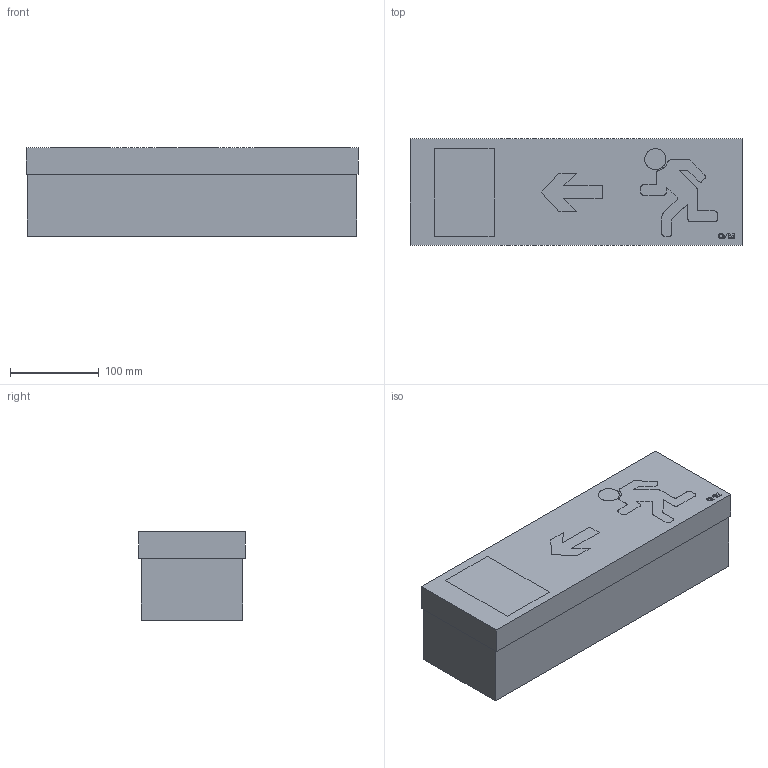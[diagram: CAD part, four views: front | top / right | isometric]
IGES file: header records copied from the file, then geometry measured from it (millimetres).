
Start section: SolidWorks IGES file using analytic representation for surfaces
Global section: file name: C:\Users\joaom\Desktop\02_3D.2D\01_2020\04_Safe\01_AS\01_Recessed\DWG_3D_AS_Encastrar.IGS; native system: SolidWorks 2020; preprocessor: SolidWorks 2020; author: joaom; date: 201109.184803; units: millimetre
Bounding box: 375 x 120 x 100 mm (x, y, z)
Surface area: 187950 mm2 (no closed solid volume)
Topology: 0 solids, 0 shells, 19 faces, 773 edges, 773 vertices
Faces by surface type: bspline 19
